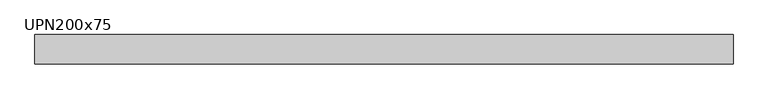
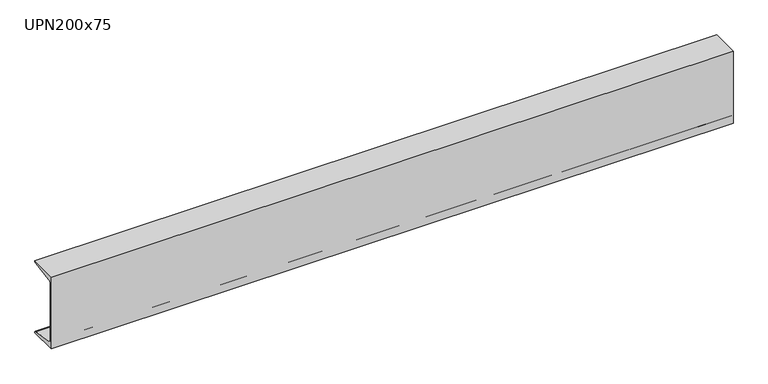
"""IFC4 building model written with IfcOpenShell, lengths in millimetres: beam geometry, M_MC Shapes : UPN200x75."""

from ifc_helpers import new_model, si_unit, point, frame, frame_2d, origin, place, context, project, spatial, polyline, circle_curve, trimmed, segment, composite_curve, outline, extrude, source, transform, mapped, element, save


def upn200x75_58a91052(model_context):
    return source(origin(), model_context, "Body", "SweptSolid", [
        extrude(outline(composite_curve([segment(polyline([(-10.9, 100.0), (64.1, 100.0), (64.1, 99.0253247)]), True, "CONTINUOUS"), segment(trimmed(circle_curve(frame_2d((60.15, 99.0253247)), 3.95), [point((64.1, 99.0253247))], [point((60.7993773, 95.1290689))], False, "CARTESIAN"), True, "CONTINUOUS"), segment(polyline([(60.7993773, 95.1290689), (0.2512455, 85.0376935)]), True, "CONTINUOUS"), segment(trimmed(circle_curve(frame_2d((1.55, 77.2451819)), 7.9), [point((0.2512455, 85.0376935))], [point((-6.35, 77.2451819))], True, "CARTESIAN"), True, "CONTINUOUS"), segment(polyline([(-6.35, 77.2451819), (-6.35, -77.2451819)]), True, "CONTINUOUS"), segment(trimmed(circle_curve(frame_2d((1.55, -77.2451819)), 7.9), [point((-6.35, -77.2451819))], [point((0.2512455, -85.0376935))], True, "CARTESIAN"), True, "CONTINUOUS"), segment(polyline([(0.2512455, -85.0376935), (60.7993773, -95.1290689)]), True, "CONTINUOUS"), segment(trimmed(circle_curve(frame_2d((60.15, -99.0253247)), 3.95), [point((60.7993773, -95.1290689))], [point((64.1, -99.0253247))], False, "CARTESIAN"), True, "CONTINUOUS"), segment(polyline([(64.1, -99.0253247), (64.1, -100.0), (-10.9, -100.0), (-10.9, 100.0)]), True, "CONTINUOUS")], self_intersect=False)), frame((-963.45, 0.0, 0.0), z_axis=(1.0, 0.0, 0.0), x_axis=(0.0, 1.0, 0.0)), (0.0, 0.0, 1.0), 1794.2),
    ])


if __name__ == "__main__":
    model = new_model("IFC4")
    model_context = context("Model", 3, world=origin())
    ifc_project = project(units=[si_unit("LENGTHUNIT", "METRE", prefix="MILLI")], contexts=[model_context])
    site = spatial("IfcSite", under=ifc_project)
    building = spatial("IfcBuilding", under=site)
    placement = place(None, origin())
    upn200x75_shape = upn200x75_58a91052(model_context)
    element("IfcBeam", 1, ObjectType="M_MC Shapes : UPN200x75", at=placement, inside=building, context=model_context, shape_type="MappedRepresentation", body=[
        mapped(upn200x75_shape, transform((0.0, 0.0, 0.0), x_axis=(1.0, 0.0, 0.0), y_axis=(0.0, 1.0, 0.0), z_axis=(0.0, 0.0, 1.0))),
    ])
    save(model, "model.ifc")
